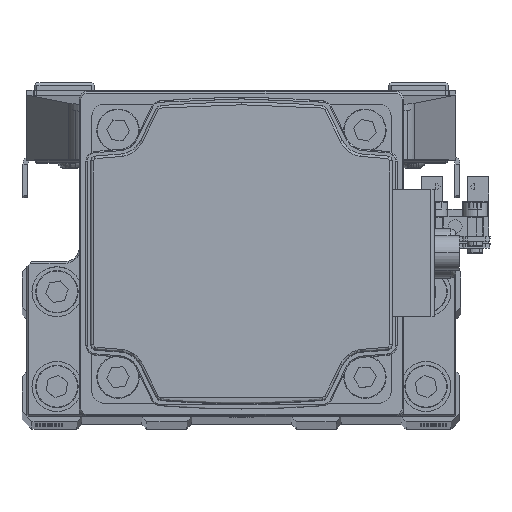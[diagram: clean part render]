
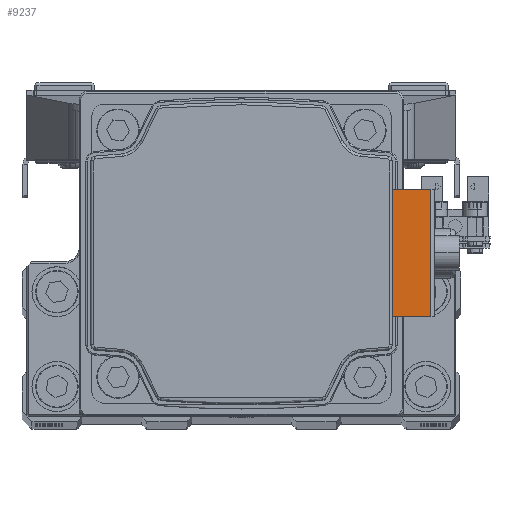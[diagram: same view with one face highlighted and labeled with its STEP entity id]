
A CAD part, top view. The second image highlights one B-rep face of the part: STEP entity #9237.
In plain terms, the highlighted planar face has unit normal (0, 0, 1) as drawn and (0, 0, -1) by its records, which use the part's own axes.
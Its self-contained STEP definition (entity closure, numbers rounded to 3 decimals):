
#730 = EDGE_CURVE ( 'NONE', #31120, #19668, #30917, .T. ) ;
#1466 = CARTESIAN_POINT ( 'NONE',  ( 12.75, 30.2, -88.696 ) ) ;
#4892 = VECTOR ( 'NONE', #9723, 1000. ) ;
#5337 = AXIS2_PLACEMENT_3D ( 'NONE', #40068, #6008, #21169 ) ;
#5899 = VECTOR ( 'NONE', #40905, 1000. ) ;
#6008 = DIRECTION ( 'NONE',  ( 0., 0., -1. ) ) ;
#8652 = CARTESIAN_POINT ( 'NONE',  ( -12.75, 37.9, -88.696 ) ) ;
#9237 = ADVANCED_FACE ( 'NONE', ( #9764 ), #24928, .T. ) ;
#9723 = DIRECTION ( 'NONE',  ( 1., 0., 0. ) ) ;
#9764 = FACE_OUTER_BOUND ( 'NONE', #47661, .T. ) ;
#10521 = VECTOR ( 'NONE', #12031, 1000. ) ;
#10582 = LINE ( 'NONE', #25752, #5899 ) ;
#12031 = DIRECTION ( 'NONE',  ( 1., 0., 0. ) ) ;
#13576 = VERTEX_POINT ( 'NONE', #8652 ) ;
#13810 = CARTESIAN_POINT ( 'NONE',  ( -12.75, 30.2, -88.696 ) ) ;
#15746 = ORIENTED_EDGE ( 'NONE', *, *, #41901, .T. ) ;
#17144 = LINE ( 'NONE', #32321, #23137 ) ;
#17251 = EDGE_CURVE ( 'NONE', #19668, #45703, #10582, .T. ) ;
#18599 = ORIENTED_EDGE ( 'NONE', *, *, #17251, .F. ) ;
#19523 = ORIENTED_EDGE ( 'NONE', *, *, #26488, .T. ) ;
#19668 = VERTEX_POINT ( 'NONE', #1466 ) ;
#21169 = DIRECTION ( 'NONE',  ( -1., 0., 0. ) ) ;
#23137 = VECTOR ( 'NONE', #47438, 1000. ) ;
#24928 = PLANE ( 'NONE',  #5337 ) ;
#25752 = CARTESIAN_POINT ( 'NONE',  ( 12.75, 33.991, -88.696 ) ) ;
#26488 = EDGE_CURVE ( 'NONE', #13576, #45703, #28605, .T. ) ;
#27641 = CARTESIAN_POINT ( 'NONE',  ( 12.75, 37.9, -88.696 ) ) ;
#28605 = LINE ( 'NONE', #43747, #4892 ) ;
#30917 = LINE ( 'NONE', #46044, #10521 ) ;
#31120 = VERTEX_POINT ( 'NONE', #13810 ) ;
#32321 = CARTESIAN_POINT ( 'NONE',  ( -12.75, 37.9, -88.696 ) ) ;
#40068 = CARTESIAN_POINT ( 'NONE',  ( 0., 37.9, -88.696 ) ) ;
#40905 = DIRECTION ( 'NONE',  ( 0., 1., 0. ) ) ;
#41901 = EDGE_CURVE ( 'NONE', #31120, #13576, #17144, .T. ) ;
#43747 = CARTESIAN_POINT ( 'NONE',  ( 0., 37.9, -88.696 ) ) ;
#45703 = VERTEX_POINT ( 'NONE', #27641 ) ;
#46044 = CARTESIAN_POINT ( 'NONE',  ( 18.438, 30.2, -88.696 ) ) ;
#46237 = ORIENTED_EDGE ( 'NONE', *, *, #730, .F. ) ;
#47438 = DIRECTION ( 'NONE',  ( 0., 1., 0. ) ) ;
#47661 = EDGE_LOOP ( 'NONE', ( #15746, #19523, #18599, #46237 ) ) ;
